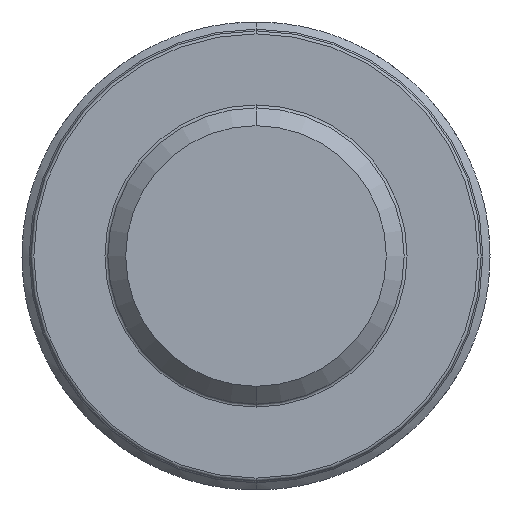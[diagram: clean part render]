
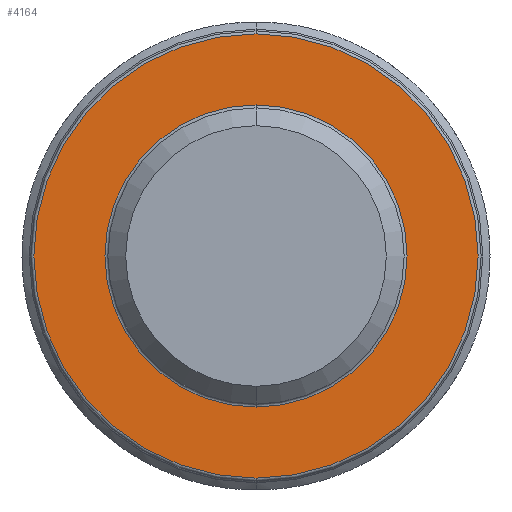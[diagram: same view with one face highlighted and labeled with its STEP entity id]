
A CAD part, front view. The second image highlights one B-rep face of the part: STEP entity #4164.
In plain terms, the highlighted planar face has unit normal (0, -1, 0).
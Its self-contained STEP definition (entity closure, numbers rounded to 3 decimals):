
#19 = EDGE_CURVE ( 'NONE', #3399, #8333, #2204, .T. ) ;
#376 = DIRECTION ( 'NONE',  ( 0., 0., -1. ) ) ;
#565 = CARTESIAN_POINT ( 'NONE',  ( 5., -10., 0. ) ) ;
#901 = AXIS2_PLACEMENT_3D ( 'NONE', #565, #1150, #3102 ) ;
#1150 = DIRECTION ( 'NONE',  ( 0., -1., 0. ) ) ;
#1173 = ORIENTED_EDGE ( 'NONE', *, *, #7639, .T. ) ;
#1388 = EDGE_CURVE ( 'NONE', #2471, #4086, #4154, .T. ) ;
#1409 = ORIENTED_EDGE ( 'NONE', *, *, #19, .T. ) ;
#1465 = AXIS2_PLACEMENT_3D ( 'NONE', #3687, #6195, #6274 ) ;
#1579 = CARTESIAN_POINT ( 'NONE',  ( 0., -10., 7.5 ) ) ;
#1927 = EDGE_CURVE ( 'NONE', #8333, #3399, #6708, .T. ) ;
#2107 = DIRECTION ( 'NONE',  ( 0., 0., -1. ) ) ;
#2204 = CIRCLE ( 'NONE', #4917, 5.1 ) ;
#2455 = FACE_BOUND ( 'NONE', #2784, .T. ) ;
#2471 = VERTEX_POINT ( 'NONE', #1579 ) ;
#2784 = EDGE_LOOP ( 'NONE', ( #4683, #1409 ) ) ;
#2993 = CARTESIAN_POINT ( 'NONE',  ( 0., -10., 0. ) ) ;
#3055 = FACE_OUTER_BOUND ( 'NONE', #7130, .T. ) ;
#3102 = DIRECTION ( 'NONE',  ( 0., 0., -1. ) ) ;
#3225 = CIRCLE ( 'NONE', #7003, 7.5 ) ;
#3399 = VERTEX_POINT ( 'NONE', #7600 ) ;
#3500 = CARTESIAN_POINT ( 'NONE',  ( 0., -10., 0. ) ) ;
#3687 = CARTESIAN_POINT ( 'NONE',  ( 0., -10., 0. ) ) ;
#4086 = VERTEX_POINT ( 'NONE', #8087 ) ;
#4154 = CIRCLE ( 'NONE', #1465, 7.5 ) ;
#4164 = ADVANCED_FACE ( 'NONE', ( #2455, #3055 ), #6348, .T. ) ;
#4225 = CARTESIAN_POINT ( 'NONE',  ( 0., -10., -5.1 ) ) ;
#4343 = DIRECTION ( 'NONE',  ( 0., 1., 0. ) ) ;
#4683 = ORIENTED_EDGE ( 'NONE', *, *, #1927, .T. ) ;
#4917 = AXIS2_PLACEMENT_3D ( 'NONE', #5020, #4343, #376 ) ;
#5020 = CARTESIAN_POINT ( 'NONE',  ( 0., -10., 0. ) ) ;
#5527 = DIRECTION ( 'NONE',  ( 0., -1., 0. ) ) ;
#6035 = DIRECTION ( 'NONE',  ( 0., 0., -1. ) ) ;
#6174 = AXIS2_PLACEMENT_3D ( 'NONE', #3500, #7272, #2107 ) ;
#6195 = DIRECTION ( 'NONE',  ( 0., -1., 0. ) ) ;
#6274 = DIRECTION ( 'NONE',  ( 0., 0., -1. ) ) ;
#6348 = PLANE ( 'NONE',  #901 ) ;
#6708 = CIRCLE ( 'NONE', #6174, 5.1 ) ;
#6905 = ORIENTED_EDGE ( 'NONE', *, *, #1388, .T. ) ;
#7003 = AXIS2_PLACEMENT_3D ( 'NONE', #2993, #5527, #6035 ) ;
#7130 = EDGE_LOOP ( 'NONE', ( #1173, #6905 ) ) ;
#7272 = DIRECTION ( 'NONE',  ( 0., 1., 0. ) ) ;
#7600 = CARTESIAN_POINT ( 'NONE',  ( 0., -10., 5.1 ) ) ;
#7639 = EDGE_CURVE ( 'NONE', #4086, #2471, #3225, .T. ) ;
#8087 = CARTESIAN_POINT ( 'NONE',  ( 0., -10., -7.5 ) ) ;
#8333 = VERTEX_POINT ( 'NONE', #4225 ) ;
